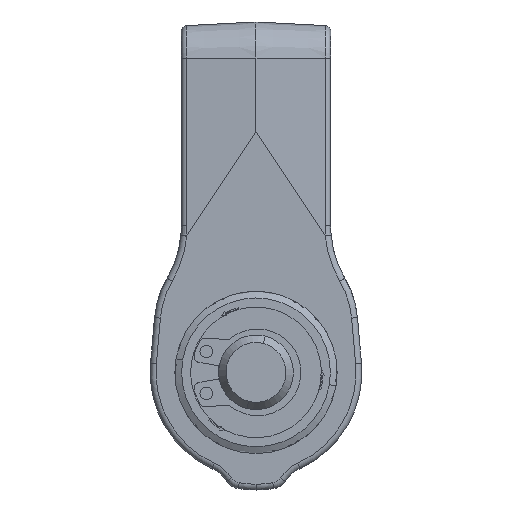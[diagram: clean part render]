
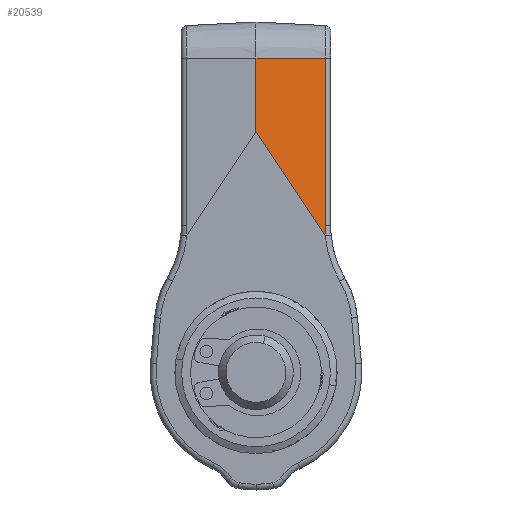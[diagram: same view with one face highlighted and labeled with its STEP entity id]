
A CAD part, left-side view. The second image highlights one B-rep face of the part: STEP entity #20539.
In plain terms, the highlighted planar face has unit normal (-0.998, -0.052, 0.035) as drawn and (-0.035, 0.052, 0.998) by its records, which use the part's own axes.
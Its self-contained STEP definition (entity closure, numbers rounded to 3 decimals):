
#265 = DIRECTION ( 'NONE',  ( -0.999, 0., -0.035 ) ) ;
#773 = VECTOR ( 'NONE', #22459, 1000. ) ;
#1466 = CARTESIAN_POINT ( 'NONE',  ( -11.591, 5.91, 39.58 ) ) ;
#1483 = LINE ( 'NONE', #26131, #20558 ) ;
#1699 = CARTESIAN_POINT ( 'NONE',  ( -26.724, 0., 39.361 ) ) ;
#2886 = ORIENTED_EDGE ( 'NONE', *, *, #21300, .T. ) ;
#2916 = CARTESIAN_POINT ( 'NONE',  ( -11.612, 5.888, 39.58 ) ) ;
#4026 = ORIENTED_EDGE ( 'NONE', *, *, #33610, .T. ) ;
#4065 = CARTESIAN_POINT ( 'NONE',  ( -11.59, 5.914, 39.579 ) ) ;
#5218 = ORIENTED_EDGE ( 'NONE', *, *, #12319, .T. ) ;
#5606 = EDGE_CURVE ( 'NONE', #27656, #31157, #33644, .T. ) ;
#5710 = B_SPLINE_CURVE_WITH_KNOTS ( 'NONE', 3,
 ( #8938, #22030, #27334, #11772, #29936, #14336, #32563, #16978, #1466, #19617, #4065, #22239, #6679 ),
 .UNSPECIFIED., .F., .F.,
 ( 4, 3, 3, 3, 4 ),
 ( 0., 0., 0., 0., 0. ),
 .UNSPECIFIED. ) ;
#5965 = CARTESIAN_POINT ( 'NONE',  ( -0.222, 5.876, 39.978 ) ) ;
#6679 = CARTESIAN_POINT ( 'NONE',  ( -11.589, 5.918, 39.579 ) ) ;
#6781 = VERTEX_POINT ( 'NONE', #29849 ) ;
#8938 = CARTESIAN_POINT ( 'NONE',  ( -11.612, 5.888, 39.58 ) ) ;
#9009 =( BOUNDED_CURVE ( )  B_SPLINE_CURVE ( 3, ( #21244, #10995, #13599, #31779 ),
 .UNSPECIFIED., .F., .F. ) 
 B_SPLINE_CURVE_WITH_KNOTS ( ( 4, 4 ),
 ( 0.492, 0.587 ),
 .UNSPECIFIED. ) 
 CURVE ( )  GEOMETRIC_REPRESENTATION_ITEM ( )  RATIONAL_B_SPLINE_CURVE ( ( 1., 0.999, 0.999, 1. ) ) 
 REPRESENTATION_ITEM ( '' )  );
#10109 = CARTESIAN_POINT ( 'NONE',  ( -0.232, 0., 40.286 ) ) ;
#10431 = AXIS2_PLACEMENT_3D ( 'NONE', #10109, #15307, #33487 ) ;
#10995 = CARTESIAN_POINT ( 'NONE',  ( -11.882, 5.89, 39.57 ) ) ;
#11119 = VECTOR ( 'NONE', #27063, 1000. ) ;
#11772 = CARTESIAN_POINT ( 'NONE',  ( -11.602, 5.896, 39.58 ) ) ;
#11916 = VECTOR ( 'NONE', #16489, 1000. ) ;
#12319 = EDGE_CURVE ( 'NONE', #6781, #33178, #9009, .T. ) ;
#13599 = CARTESIAN_POINT ( 'NONE',  ( -12.176, 5.876, 39.561 ) ) ;
#14336 = CARTESIAN_POINT ( 'NONE',  ( -11.595, 5.903, 39.58 ) ) ;
#14946 = CARTESIAN_POINT ( 'NONE',  ( -26.724, 0., 39.361 ) ) ;
#15096 = EDGE_CURVE ( 'NONE', #24162, #25692, #31848, .T. ) ;
#15250 = CARTESIAN_POINT ( 'NONE',  ( -26.713, 5.876, 39.053 ) ) ;
#15307 = DIRECTION ( 'NONE',  ( -0.035, 0.052, 0.998 ) ) ;
#16489 = DIRECTION ( 'NONE',  ( -0.999, 0., -0.035 ) ) ;
#16978 = CARTESIAN_POINT ( 'NONE',  ( -11.592, 5.908, 39.58 ) ) ;
#17345 = CARTESIAN_POINT ( 'NONE',  ( -20.455, 0., 39.58 ) ) ;
#17826 = PLANE ( 'NONE',  #10431 ) ;
#19617 = CARTESIAN_POINT ( 'NONE',  ( -11.59, 5.912, 39.58 ) ) ;
#20539 = ADVANCED_FACE ( 'NONE', ( #25385 ), #17826, .T. ) ;
#20558 = VECTOR ( 'NONE', #265, 1000. ) ;
#21064 = EDGE_LOOP ( 'NONE', ( #23138, #4026, #5218, #2886, #33528, #21323 ) ) ;
#21244 = CARTESIAN_POINT ( 'NONE',  ( -11.589, 5.918, 39.579 ) ) ;
#21300 = EDGE_CURVE ( 'NONE', #33178, #27656, #25742, .T. ) ;
#21323 = ORIENTED_EDGE ( 'NONE', *, *, #30699, .F. ) ;
#22030 = CARTESIAN_POINT ( 'NONE',  ( -11.609, 5.891, 39.58 ) ) ;
#22239 = CARTESIAN_POINT ( 'NONE',  ( -11.589, 5.916, 39.579 ) ) ;
#22459 = DIRECTION ( 'NONE',  ( -0.002, -0.999, 0.052 ) ) ;
#23138 = ORIENTED_EDGE ( 'NONE', *, *, #15096, .T. ) ;
#24162 = VERTEX_POINT ( 'NONE', #17345 ) ;
#24469 = CARTESIAN_POINT ( 'NONE',  ( -6.445, 9.329, 39.58 ) ) ;
#25385 = FACE_OUTER_BOUND ( 'NONE', #21064, .T. ) ;
#25692 = VERTEX_POINT ( 'NONE', #2916 ) ;
#25742 = LINE ( 'NONE', #5965, #11916 ) ;
#26131 = CARTESIAN_POINT ( 'NONE',  ( -0.232, 0., 40.286 ) ) ;
#27063 = DIRECTION ( 'NONE',  ( 0.832, 0.554, 0. ) ) ;
#27334 = CARTESIAN_POINT ( 'NONE',  ( -11.605, 5.893, 39.58 ) ) ;
#27656 = VERTEX_POINT ( 'NONE', #15250 ) ;
#29849 = CARTESIAN_POINT ( 'NONE',  ( -11.589, 5.918, 39.579 ) ) ;
#29936 = CARTESIAN_POINT ( 'NONE',  ( -11.598, 5.899, 39.58 ) ) ;
#30699 = EDGE_CURVE ( 'NONE', #24162, #31157, #1483, .T. ) ;
#31157 = VERTEX_POINT ( 'NONE', #14946 ) ;
#31779 = CARTESIAN_POINT ( 'NONE',  ( -12.47, 5.876, 39.551 ) ) ;
#31848 = LINE ( 'NONE', #24469, #11119 ) ;
#32563 = CARTESIAN_POINT ( 'NONE',  ( -11.593, 5.906, 39.58 ) ) ;
#32927 = CARTESIAN_POINT ( 'NONE',  ( -12.47, 5.876, 39.551 ) ) ;
#33178 = VERTEX_POINT ( 'NONE', #32927 ) ;
#33487 = DIRECTION ( 'NONE',  ( 0., 0.999, -0.052 ) ) ;
#33528 = ORIENTED_EDGE ( 'NONE', *, *, #5606, .T. ) ;
#33610 = EDGE_CURVE ( 'NONE', #25692, #6781, #5710, .T. ) ;
#33644 = LINE ( 'NONE', #1699, #773 ) ;
